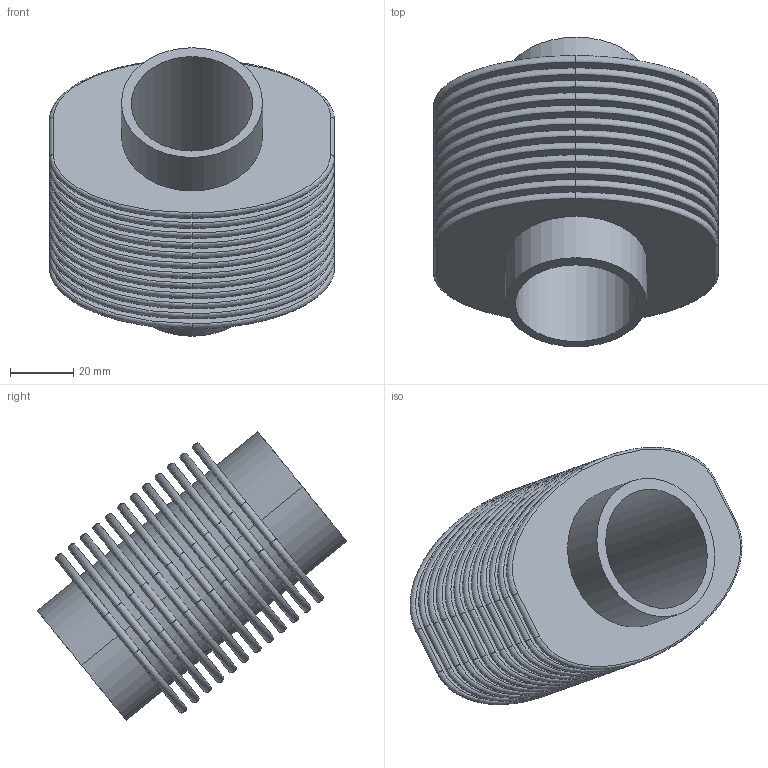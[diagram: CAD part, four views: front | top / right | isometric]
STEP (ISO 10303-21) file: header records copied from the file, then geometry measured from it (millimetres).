
FILE_DESCRIPTION(('STEP AP214'),'1');
FILE_NAME('D:/Data/geometry/auto/aftertreatment-part2.stp','2014-04-10T11:06:47',(' '),(' '),'Spatial InterOp 3D',' ',' ');
FILE_SCHEMA(('automotive_design'));
Length unit declared in the file: millimetre
Products named in the file (2): aftertreatment-part2; part2
Assembly tree (1 placements, depth 2):
  aftertreatment-part2
    part2
Bounding box: 90.44 x 98.26 x 91.56 mm (x, y, z)
Volume: 134615.6 mm3; surface area: 103351.4 mm2
Topology: 1 solids, 1 shells, 126 faces, 300 edges, 200 vertices
Faces by surface type: cylinder 52, bspline 48, plane 26
Entity records: 8068 total; most frequent: CARTESIAN_POINT 4132, ORIENTED_EDGE 600, DIRECTION 588, EDGE_CURVE 300, AXIS2_PLACEMENT_3D 256, VERTEX_POINT 200, EDGE_LOOP 152, STYLED_ITEM 127
